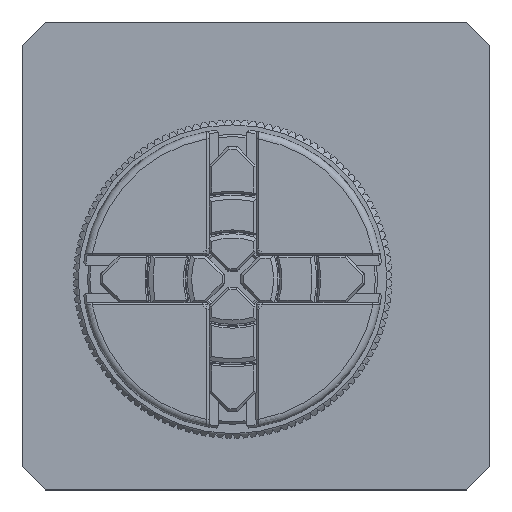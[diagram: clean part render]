
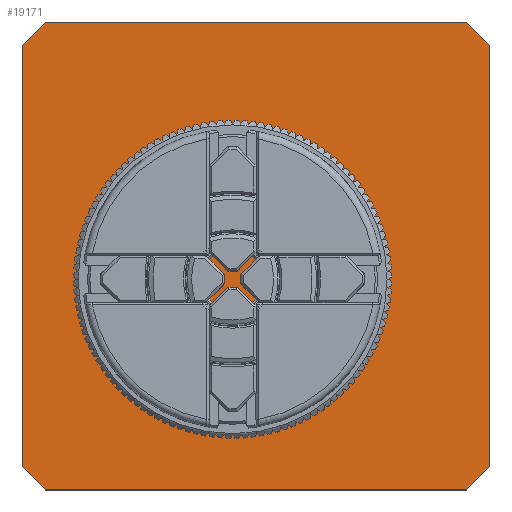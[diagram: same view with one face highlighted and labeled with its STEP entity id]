
A CAD part, top view. The second image highlights one B-rep face of the part: STEP entity #19171.
In plain terms, the highlighted planar face has unit normal (0, 0, 1).
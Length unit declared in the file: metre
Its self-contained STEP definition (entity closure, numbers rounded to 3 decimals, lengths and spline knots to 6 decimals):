
#2155=ORIENTED_EDGE('',*,*,#8297,.T.);
#2156=ORIENTED_EDGE('',*,*,#8303,.T.);
#2157=ORIENTED_EDGE('',*,*,#8291,.F.);
#2158=ORIENTED_EDGE('',*,*,#8304,.T.);
#2159=ORIENTED_EDGE('',*,*,#8287,.F.);
#2160=ORIENTED_EDGE('',*,*,#8305,.T.);
#2161=ORIENTED_EDGE('',*,*,#8285,.T.);
#2162=ORIENTED_EDGE('',*,*,#8306,.T.);
#8285=EDGE_CURVE('',#11362,#11361,#13413,.T.);
#8287=EDGE_CURVE('',#11363,#11364,#13415,.T.);
#8291=EDGE_CURVE('',#11367,#11368,#13419,.T.);
#8297=EDGE_CURVE('',#11374,#11373,#13425,.T.);
#8303=EDGE_CURVE('',#11373,#11368,#13431,.T.);
#8304=EDGE_CURVE('',#11367,#11364,#13432,.F.);
#8305=EDGE_CURVE('',#11363,#11362,#13433,.T.);
#8306=EDGE_CURVE('',#11361,#11374,#13434,.F.);
#11361=VERTEX_POINT('',#27086);
#11362=VERTEX_POINT('',#27088);
#11363=VERTEX_POINT('',#27092);
#11364=VERTEX_POINT('',#27093);
#11367=VERTEX_POINT('',#27101);
#11368=VERTEX_POINT('',#27102);
#11373=VERTEX_POINT('',#27113);
#11374=VERTEX_POINT('',#27115);
#13413=LINE('',#27087,#14779);
#13415=LINE('',#27091,#14781);
#13419=LINE('',#27100,#14785);
#13425=LINE('',#27114,#14791);
#13431=LINE('',#27123,#14797);
#13432=LINE('',#27124,#14798);
#13433=LINE('',#27125,#14799);
#13434=LINE('',#27126,#14800);
#14779=VECTOR('',#22154,1.);
#14781=VECTOR('',#22158,1.);
#14785=VECTOR('',#22164,1.);
#14791=VECTOR('',#22172,1.);
#14797=VECTOR('',#22182,1.);
#14798=VECTOR('',#22183,1.);
#14799=VECTOR('',#22184,1.);
#14800=VECTOR('',#22185,1.);
#16148=EDGE_LOOP('',(#2155,#2156,#2157,#2158,#2159,#2160,#2161,#2162));
#17298=FACE_BOUND('',#16148,.T.);
#18458=PLANE('',#20371);
#19171=ADVANCED_FACE('',(#17298),#18458,.F.);
#20371=AXIS2_PLACEMENT_3D('',#27122,#22180,#22181);
#22154=DIRECTION('',(1.,0.,0.));
#22158=DIRECTION('',(0.,1.,0.));
#22164=DIRECTION('',(1.,0.,0.));
#22172=DIRECTION('',(0.,1.,0.));
#22180=DIRECTION('',(0.,0.,-1.));
#22181=DIRECTION('',(0.,1.,0.));
#22182=DIRECTION('',(-0.707,0.707,0.));
#22183=DIRECTION('',(0.707,0.707,0.));
#22184=DIRECTION('',(0.707,-0.707,0.));
#22185=DIRECTION('',(-0.707,-0.707,0.));
#27086=CARTESIAN_POINT('',(0.08,-0.015,0.005));
#27087=CARTESIAN_POINT('',(0.0575,-0.015,0.005));
#27088=CARTESIAN_POINT('',(-0.01,-0.015,0.005));
#27091=CARTESIAN_POINT('',(-0.015,0.0575,0.005));
#27092=CARTESIAN_POINT('',(-0.015,-0.01,0.005));
#27093=CARTESIAN_POINT('',(-0.015,0.08,0.005));
#27100=CARTESIAN_POINT('',(0.035,0.085,0.005));
#27101=CARTESIAN_POINT('',(-0.01,0.085,0.005));
#27102=CARTESIAN_POINT('',(0.08,0.085,0.005));
#27113=CARTESIAN_POINT('',(0.085,0.08,0.005));
#27114=CARTESIAN_POINT('',(0.085,0.035,0.005));
#27115=CARTESIAN_POINT('',(0.085,-0.01,0.005));
#27122=CARTESIAN_POINT('',(0.035,0.035,0.005));
#27123=CARTESIAN_POINT('',(0.085,0.08,0.005));
#27124=CARTESIAN_POINT('',(-0.01,0.085,0.005));
#27125=CARTESIAN_POINT('',(-0.015,-0.01,0.005));
#27126=CARTESIAN_POINT('',(0.08,-0.015,0.005));
